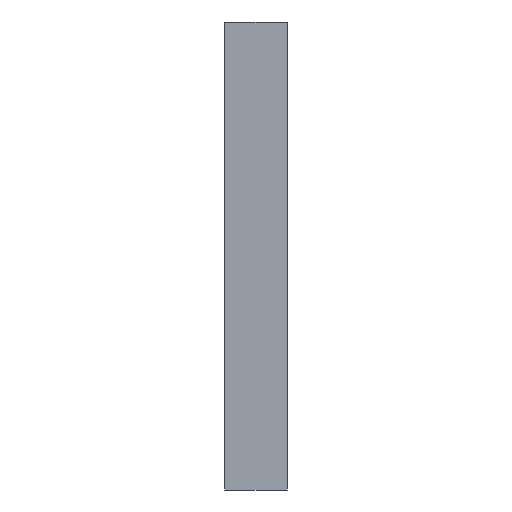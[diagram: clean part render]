
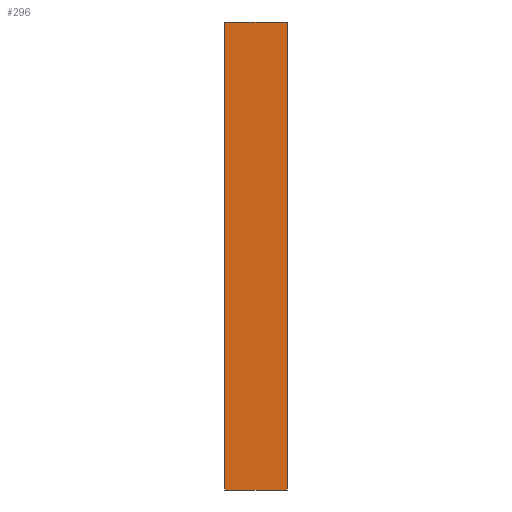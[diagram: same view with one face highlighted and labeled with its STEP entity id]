
A CAD part, left-side view. The second image highlights one B-rep face of the part: STEP entity #296.
In plain terms, the highlighted planar face has unit normal (-1, 0, 0).
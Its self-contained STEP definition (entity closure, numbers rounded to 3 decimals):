
#174=CARTESIAN_POINT('Vertex',(-60.,12.,-45.)) ;
#177=CARTESIAN_POINT('Line Origine',(-60.,12.,0.)) ;
#181=CARTESIAN_POINT('Vertex',(-60.,12.,45.)) ;
#258=CARTESIAN_POINT('Vertex',(-60.,0.,-45.)) ;
#261=CARTESIAN_POINT('Line Origine',(-60.,6.,-45.)) ;
#273=CARTESIAN_POINT('Axis2P3D Location',(-60.,0.,45.)) ;
#278=CARTESIAN_POINT('Line Origine',(-60.,0.,0.)) ;
#282=CARTESIAN_POINT('Vertex',(-60.,0.,45.)) ;
#285=CARTESIAN_POINT('Line Origine',(-60.,6.,45.)) ;
#178=DIRECTION('Vector Direction',(0.,0.,-1.)) ;
#262=DIRECTION('Vector Direction',(0.,1.,0.)) ;
#274=DIRECTION('Axis2P3D Direction',(1.,0.,0.)) ;
#275=DIRECTION('Axis2P3D XDirection',(0.,0.,-1.)) ;
#279=DIRECTION('Vector Direction',(0.,0.,-1.)) ;
#286=DIRECTION('Vector Direction',(0.,1.,0.)) ;
#276=AXIS2_PLACEMENT_3D('Plane Axis2P3D',#273,#274,#275) ;
#291=ORIENTED_EDGE('',*,*,#265,.F.) ;
#292=ORIENTED_EDGE('',*,*,#284,.T.) ;
#293=ORIENTED_EDGE('',*,*,#289,.T.) ;
#294=ORIENTED_EDGE('',*,*,#183,.F.) ;
#179=VECTOR('Line Direction',#178,1.) ;
#263=VECTOR('Line Direction',#262,1.) ;
#280=VECTOR('Line Direction',#279,1.) ;
#287=VECTOR('Line Direction',#286,1.) ;
#296=ADVANCED_FACE('',(#295),#277,.F.) ;
#183=EDGE_CURVE('',#175,#182,#180,.F.) ;
#265=EDGE_CURVE('',#259,#175,#264,.T.) ;
#284=EDGE_CURVE('',#259,#283,#281,.F.) ;
#289=EDGE_CURVE('',#283,#182,#288,.T.) ;
#290=EDGE_LOOP('',(#291,#292,#293,#294)) ;
#295=FACE_OUTER_BOUND('',#290,.T.) ;
#180=LINE('Line',#177,#179) ;
#264=LINE('Line',#261,#263) ;
#281=LINE('Line',#278,#280) ;
#288=LINE('Line',#285,#287) ;
#277=PLANE('Plane',#276) ;
#175=VERTEX_POINT('',#174) ;
#182=VERTEX_POINT('',#181) ;
#259=VERTEX_POINT('',#258) ;
#283=VERTEX_POINT('',#282) ;
